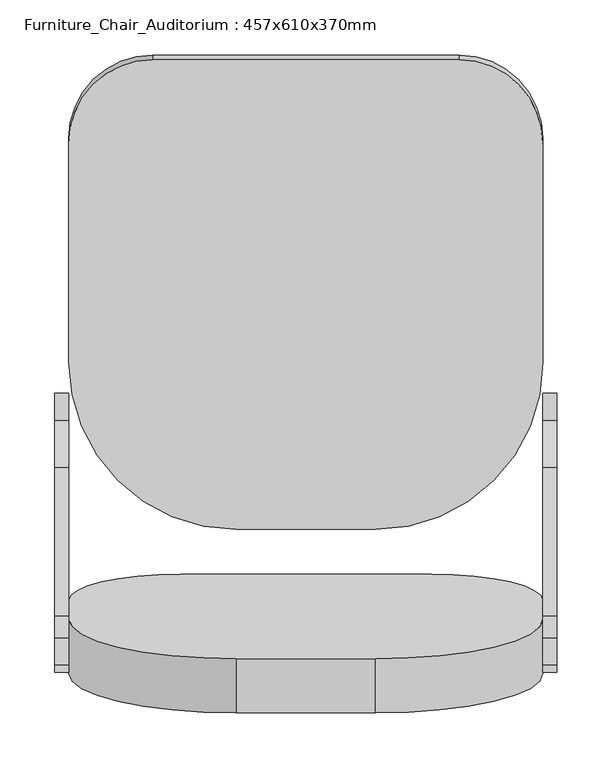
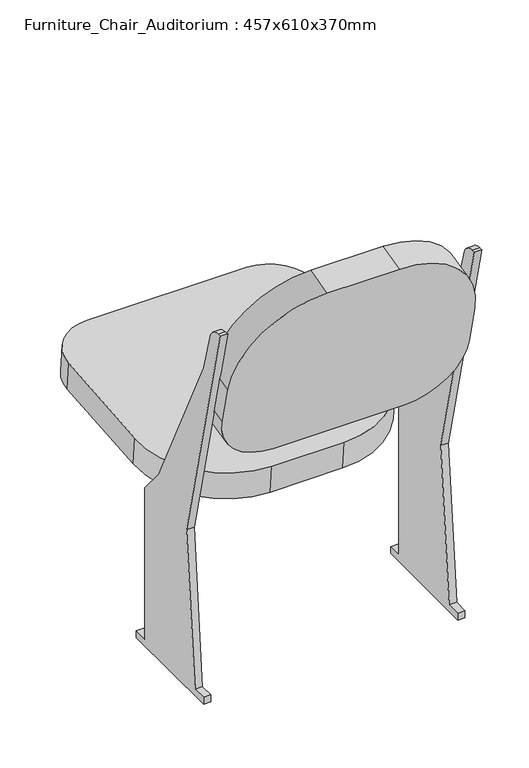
"""IFC4 building model written with IfcOpenShell, lengths in millimetres: furniture geometry, Furniture_Chair_Auditorium : 457x610x370mm."""

from ifc_helpers import new_model, si_unit, point, frame, frame_2d, origin, place, context, project, spatial, polyline, circle_curve, trimmed, segment, composite_curve, outline, extrude, source, transform, mapped, element, save


def furniture_chair_auditorium_457x610x370mm_3d1d9cbc(model_context):
    return source(origin(), model_context, "Body", "SweptSolid", [
        extrude(outline(composite_curve([segment(polyline([(0.0, 0.0), (127.0, 0.0)]), True, "CONTINUOUS"), segment(trimmed(circle_curve(frame_2d((127.0, -152.4)), 152.4), [point((127.0, 0.0))], [point((279.4, -152.4))], False, "CARTESIAN"), True, "CONTINUOUS"), segment(polyline([(279.4, -152.4), (279.4, -224.0588601)]), True, "CONTINUOUS"), segment(trimmed(circle_curve(frame_2d((177.8, -224.0588601)), 101.6), [point((279.4, -224.0588601))], [point((177.8, -325.6588601))], False, "CARTESIAN"), True, "CONTINUOUS"), segment(polyline([(177.8, -325.6588601), (-50.8, -325.6588601)]), True, "CONTINUOUS"), segment(trimmed(circle_curve(frame_2d((-50.8, -224.0588601)), 101.6), [point((-50.8, -325.6588601))], [point((-152.4, -224.0588601))], False, "CARTESIAN"), True, "CONTINUOUS"), segment(polyline([(-152.4, -224.0588601), (-152.4, -152.4)]), True, "CONTINUOUS"), segment(trimmed(circle_curve(frame_2d((0.0, -152.4)), 152.4), [point((-152.4, -152.4))], [point((0.0, 0.0))], False, "CARTESIAN"), True, "CONTINUOUS")], self_intersect=False)), frame((224.2278689, -101.3396919, 755.9484479), z_axis=(0.0, 0.9717404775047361, 0.23605178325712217), x_axis=(-1.0, 0.0, 0.0)), (0.0, 0.0, 1.0), 50.8),
        extrude(outline(composite_curve([segment(trimmed(circle_curve(frame_2d((0.0, -76.2)), 76.2), [point((0.0, 0.0))], [point((76.2, -76.2))], False, "CARTESIAN"), True, "CONTINUOUS"), segment(polyline([(76.2, -76.2), (76.2, -276.4123505)]), True, "CONTINUOUS"), segment(trimmed(circle_curve(frame_2d((-76.2, -276.4123505)), 152.4), [point((76.2, -276.4123505))], [point((-76.2, -428.8123506))], False, "CARTESIAN"), True, "CONTINUOUS"), segment(polyline([(-76.2, -428.8123506), (-203.2, -428.8123506)]), True, "CONTINUOUS"), segment(trimmed(circle_curve(frame_2d((-203.2, -276.4123505)), 152.4), [point((-203.2, -428.8123506))], [point((-355.6, -276.4123505))], False, "CARTESIAN"), True, "CONTINUOUS"), segment(polyline([(-355.6, -276.4123505), (-355.6, -76.2)]), True, "CONTINUOUS"), segment(trimmed(circle_curve(frame_2d((-279.4, -76.2)), 76.2), [point((-355.6, -76.2))], [point((-279.4, 0.0))], False, "CARTESIAN"), True, "CONTINUOUS"), segment(polyline([(-279.4, 0.0), (0.0, 0.0)]), True, "CONTINUOUS")], self_intersect=False)), frame((300.4278689, 497.5245173, 321.2380213), z_axis=(0.0, -0.08715574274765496, 0.9961946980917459), x_axis=(1.0, 0.0, 0.0)), (0.0, 0.0, 1.0), 50.8),
        extrude(outline(composite_curve([segment(polyline([(-13.3245902, 0.0), (-13.3245902, 12.7), (12.0754098, 12.7), (37.4754098, 292.1), (-64.1245902, 711.2), (-57.883846, 711.2)]), True, "CONTINUOUS"), segment(trimmed(circle_curve(frame_2d((-57.883846, 685.8)), 25.4), [point((-57.883846, 711.2))], [point((-33.4611378, 692.7779166))], False, "CARTESIAN"), True, "CONTINUOUS"), segment(polyline([(-33.4611378, 692.7779166), (-13.3245902, 622.3), (121.8491486, 342.9), (164.4754098, 292.1), (164.4754098, 12.7), (189.8754098, 12.7), (189.8754098, 0.0), (-13.3245902, 0.0)]), True, "CONTINUOUS")], self_intersect=False)), frame((-67.8721311, 0.0, 0.0), z_axis=(1.0, 0.0, 0.0), x_axis=(0.0, 1.0, 0.0)), (0.0, 0.0, 1.0), 12.7),
        extrude(outline(composite_curve([segment(polyline([(-13.3245902, 12.7), (12.0754098, 12.7), (37.4754098, 292.1), (-64.1245902, 711.2), (-57.883846, 711.2)]), True, "CONTINUOUS"), segment(trimmed(circle_curve(frame_2d((-57.883846, 685.8)), 25.4), [point((-57.883846, 711.2))], [point((-33.4611378, 692.7779166))], False, "CARTESIAN"), True, "CONTINUOUS"), segment(polyline([(-33.4611378, 692.7779166), (-13.3245902, 622.3), (121.8491486, 342.9), (164.4754098, 292.1), (164.4754098, 12.7), (189.8754098, 12.7), (189.8754098, 0.0), (-13.3245902, 0.0), (-13.3245902, 12.7)]), True, "CONTINUOUS")], self_intersect=False)), frame((376.6278689, 0.0, 0.0), z_axis=(1.0, 0.0, 0.0), x_axis=(0.0, 1.0, 0.0)), (0.0, 0.0, 1.0), 12.7),
    ])


if __name__ == "__main__":
    model = new_model("IFC4")
    model_context = context("Model", 3, world=origin())
    ifc_project = project(units=[si_unit("LENGTHUNIT", "METRE", prefix="MILLI")], contexts=[model_context])
    site = spatial("IfcSite", under=ifc_project)
    building = spatial("IfcBuilding", under=site)
    placement = place(None, origin())
    furniture_chair_auditorium_457x610x370mm_shape = furniture_chair_auditorium_457x610x370mm_3d1d9cbc(model_context)
    element("IfcFurniture", 1, ObjectType="Furniture_Chair_Auditorium : 457x610x370mm", at=placement, inside=building, context=model_context, shape_type="MappedRepresentation", body=[
        mapped(furniture_chair_auditorium_457x610x370mm_shape, transform((0.0, 0.0, 0.0), x_axis=(1.0, 0.0, 0.0), y_axis=(0.0, 1.0, 0.0), z_axis=(0.0, 0.0, 1.0))),
    ])
    save(model, "model.ifc")
